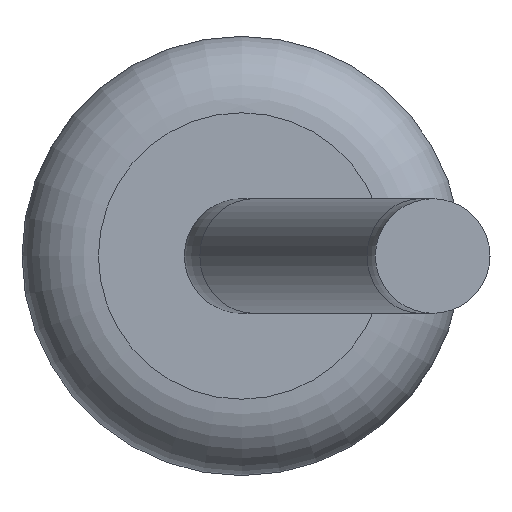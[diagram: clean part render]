
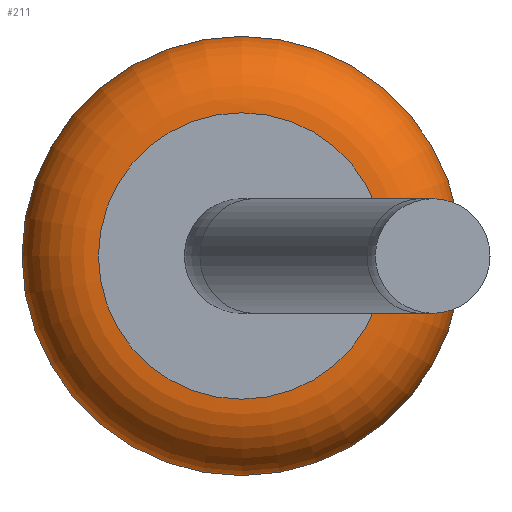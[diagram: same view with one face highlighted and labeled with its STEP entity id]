
A CAD part, left-side view. The second image highlights one B-rep face of the part: STEP entity #211.
In plain terms, the highlighted toroidal (fillet/blend) face has major radius 0.75 mm and minor radius 0.4 mm.
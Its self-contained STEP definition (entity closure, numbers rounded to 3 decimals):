
#211=ADVANCED_FACE('',(#434,#436),#438,.T.);
#434=FACE_OUTER_BOUND('',#435,.T.);
#435=EDGE_LOOP('',(#537));
#436=FACE_OUTER_BOUND('',#437,.T.);
#437=EDGE_LOOP('',(#538));
#438=TOROIDAL_SURFACE('',#439,0.75,0.4);
#439=AXIS2_PLACEMENT_3D('',#440,#441,#442);
#440=CARTESIAN_POINT('',(-2.85,0.,0.));
#441=DIRECTION('',(-1.,0.,0.));
#442=DIRECTION('',(0.,0.,1.));
#537=ORIENTED_EDGE('',*,*,#568,.T.);
#538=ORIENTED_EDGE('',*,*,#569,.F.);
#568=EDGE_CURVE('',#608,#608,#609,.T.);
#569=EDGE_CURVE('',#610,#610,#611,.T.);
#608=VERTEX_POINT('',#704);
#609=CIRCLE('',#705,1.15);
#610=VERTEX_POINT('',#709);
#611=CIRCLE('',#710,0.75);
#704=CARTESIAN_POINT('',(-2.85,0.,1.15));
#705=AXIS2_PLACEMENT_3D('',#706,#707,#708);
#706=CARTESIAN_POINT('',(-2.85,0.,0.));
#707=DIRECTION('',(-1.,0.,0.));
#708=DIRECTION('',(0.,0.,1.));
#709=CARTESIAN_POINT('',(-3.25,0.,0.75));
#710=AXIS2_PLACEMENT_3D('',#711,#712,#713);
#711=CARTESIAN_POINT('',(-3.25,0.,0.));
#712=DIRECTION('',(-1.,0.,0.));
#713=DIRECTION('',(0.,0.,1.));
